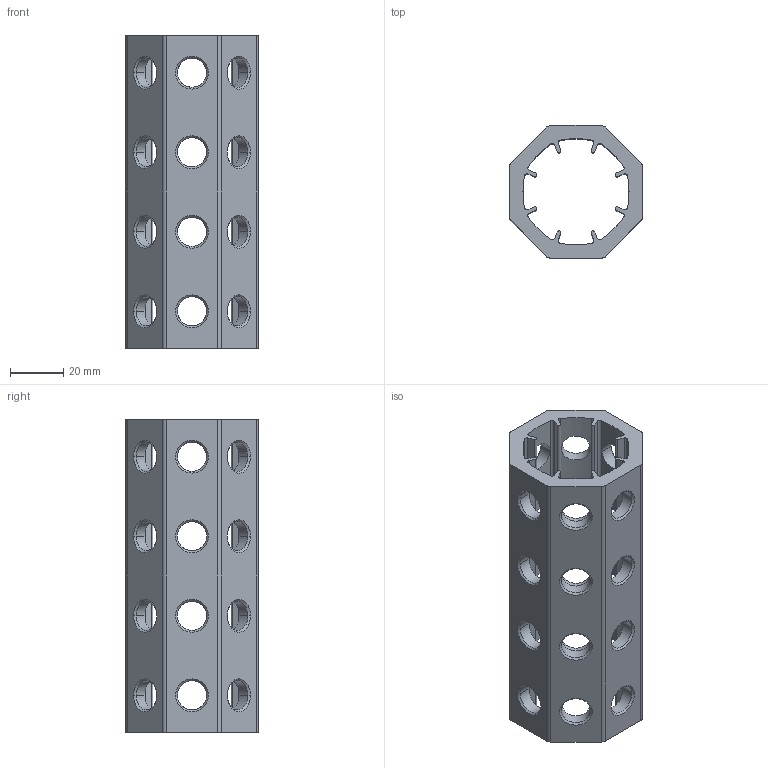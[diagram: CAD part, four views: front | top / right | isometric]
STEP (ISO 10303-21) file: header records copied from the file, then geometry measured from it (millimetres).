
FILE_DESCRIPTION(('CATIA V5 STEP Exchange'),'2;1');
FILE_NAME('U:\Room\唐宝山\EGT002\46-01-010233-01-EGT002-118.stp','2021-08-24T00:55:51+00:00',('none'),('none'),'CATIA Version 5 Release 21 GA (IN-10)','CATIA V5 STEP AP203','none');
FILE_SCHEMA(('CONFIG_CONTROL_DESIGN'));
Length unit declared in the file: millimetre
Products named in the file (1): 46-01-010233-01-EGT002-118
Bounding box: 50 x 50 x 118 mm (x, y, z)
Volume: 83827.5 mm3; surface area: 42110.4 mm2
Topology: 1 solids, 1 shells, 244 faces, 686 edges, 436 vertices
Faces by surface type: cylinder 122, cone 96, plane 26
Entity records: 9425 total; most frequent: CARTESIAN_POINT 3308, ORIENTED_EDGE 1372, DIRECTION 1020, EDGE_CURVE 686, AXIS2_PLACEMENT_3D 479, VERTEX_POINT 436, EDGE_LOOP 302, VECTOR 298
